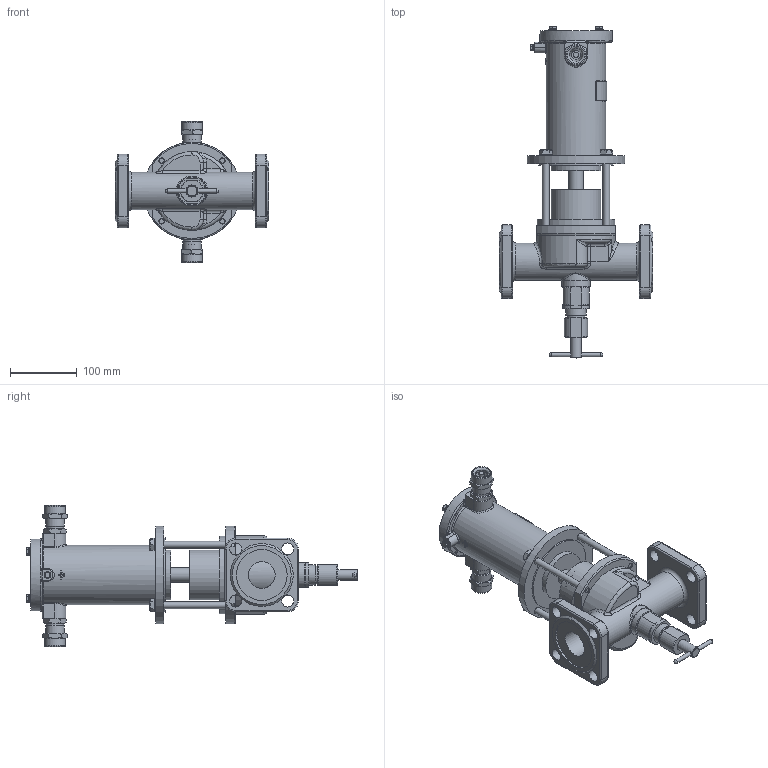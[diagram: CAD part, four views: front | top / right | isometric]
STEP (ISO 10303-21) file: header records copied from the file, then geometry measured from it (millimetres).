
FILE_DESCRIPTION(('STEP AP203'), '1');
FILE_NAME('ÑÅÍÑ DN40PN25-Â-200Ñ.stp', '2018-09-19T08:47:51', ('Îðëîâ Å.Â.'), ('ÎÎÎ ÍÏÏ Ñåíñîð'), 'ASCON STEP Converter 1.3', 'Kompas 3D', '');
FILE_SCHEMA(('CONFIG_CONTROL_DESIGN','SUPPORT_RESOURCE_SCHEMA'));
Length unit declared in the file: millimetre
Products named in the file (1): 57
Bounding box: 230 x 496.7 x 211 mm (x, y, z)
Volume: 1770450 mm3; surface area: 461186.6 mm2
Topology: 2 solids, 20 shells, 1967 faces, 5216 edges, 3376 vertices
Faces by surface type: cylinder 1011, plane 712, cone 123, torus 54, bspline 47, extrusion 16, sphere 4
Full cylindrical faces by diameter (mm): 3.5 x2, 4.134 x1, 4.917 x4, 5 x1, 6 x10, 6.5 x4, 8 x4, 8.2 x1, 8.376 x4, 9 x1, 10 x5, 11 x5, 12 x4, 13 x2, 16 x2, 17 x2, 18 x9, 20 x5, 22 x3, 22.376 x2, 23 x1, 23.5 x2, 24 x2, 24.5 x2, 26 x4, 26.376 x2, 27.8 x1, 28 x3, 28.5 x2, 30 x2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
Entity records: 76751 total; most frequent: CARTESIAN_POINT 26789, DIRECTION 10834, ORIENTED_EDGE 10382, EDGE_CURVE 5191, AXIS2_PLACEMENT_3D 4165, VERTEX_POINT 3376, VECTOR 2504, LINE 2488
